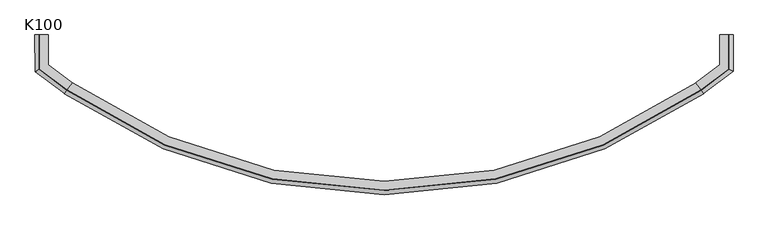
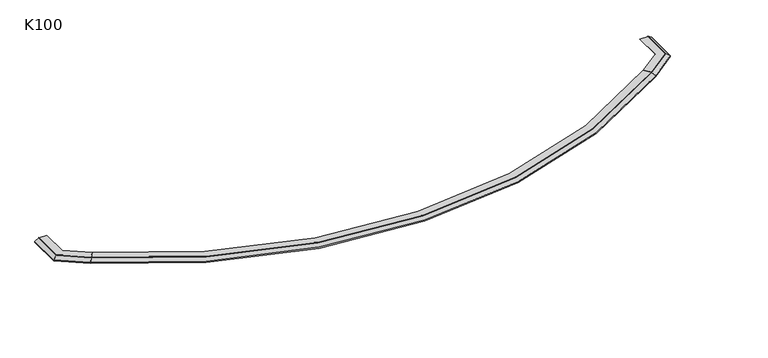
"""IFC4 building model written with IfcOpenShell, lengths in millimetres: proxy geometry, K100 Profil okapowy łukowy : K100."""

import ifcopenshell
import ifcopenshell.guid

model = None  # the IFC model being written
_history = None  # IfcOwnerHistory: only IFC2X3 demands one
_inside = {}  # id of a spatial element -> (the spatial element, [elements in it])
_under = {}  # id of a project, library or spatial element -> (it, [spatial elements below it])
_declared = {}  # id of a project -> (the project, [libraries it declares])
_typed = {}  # id of a type object -> (the type object, [elements of that type])
_made_of = {}  # id of a material, layer set ... -> (it, [elements and type objects made of it])


def new_model(schema):
    """Start an empty IFC model of exactly this schema.

    Asked for "IFC4X3", IfcOpenShell would pick the latest addendum, in which some entities
    have other attributes; the version numbers below select the first issue.
    IFC2X3 requires an IfcOwnerHistory on every rooted entity: one is made here for all.
    """
    global model, _history
    if schema == "IFC4X3":
        model = ifcopenshell.file(schema_version=(4, 3, 0, 0))
    else:
        model = ifcopenshell.file(schema=schema)
    _inside.clear()
    _under.clear()
    _declared.clear()
    _typed.clear()
    _made_of.clear()
    _history = None
    if model.schema == "IFC2X3":
        org = make("IfcOrganization", Name="unknown")
        user = make(
            "IfcPersonAndOrganization",
            ThePerson=make("IfcPerson", FamilyName="unknown"),
            TheOrganization=org,
        )
        app = make(
            "IfcApplication",
            ApplicationDeveloper=org,
            Version="unknown",
            ApplicationFullName="unknown",
            ApplicationIdentifier="unknown",
        )
        _history = make(
            "IfcOwnerHistory",
            OwningUser=user,
            OwningApplication=app,
            ChangeAction="ADDED",
            CreationDate=0,
        )
    return model


def make(cls, **values):
    """One entity of the class cls with the attributes given. An attribute that is None is left unset."""
    return model.create_entity(
        cls, **{name: value for name, value in values.items() if value is not None}
    )


def rooted(cls, **values):
    """An entity with a GlobalId (a new one), such as an element, a storey or a relation."""
    return make(cls, GlobalId=ifcopenshell.guid.new(), OwnerHistory=_history, **values)


def si_unit(unit_type, name, prefix=None):
    """IfcSIUnit, for example si_unit("LENGTHUNIT", "METRE", prefix="MILLI")."""
    return make("IfcSIUnit", UnitType=unit_type, Prefix=prefix, Name=name)


def assignment(units):
    """IfcUnitAssignment: the units of a project."""
    return None if units is None else make("IfcUnitAssignment", Units=units)


def point(xyz):
    """IfcCartesianPoint."""
    return None if xyz is None else make("IfcCartesianPoint", Coordinates=xyz)


def direction(xyz):
    """IfcDirection."""
    return None if xyz is None else make("IfcDirection", DirectionRatios=xyz)


def frame(location, z_axis=None, x_axis=None):
    """IfcAxis2Placement3D, a coordinate frame: its origin and axes. An axis left out is left unset."""
    return make(
        "IfcAxis2Placement3D",
        Location=point(location),
        Axis=direction(z_axis),
        RefDirection=direction(x_axis),
    )


def origin():
    """The frame at (0, 0, 0) with its axes left unset."""
    return frame((0.0, 0.0, 0.0))


def place(relative_to, where):
    """IfcLocalPlacement: puts the frame where relative to a parent placement (None: the world)."""
    return make(
        "IfcLocalPlacement", PlacementRelTo=relative_to, RelativePlacement=where
    )


def context(
    kind, dimensions, precision=None, world=None, true_north=None, identifier=None
):
    """IfcGeometricRepresentationContext, for example the 3D "Model" context."""
    return make(
        "IfcGeometricRepresentationContext",
        ContextIdentifier=identifier,
        ContextType=kind,
        CoordinateSpaceDimension=dimensions,
        Precision=precision,
        WorldCoordinateSystem=world,
        TrueNorth=true_north,
    )


def project(units=None, contexts=None):
    """IfcProject with its units and contexts."""
    return rooted(
        "IfcProject",
        Name="project",
        RepresentationContexts=contexts,
        UnitsInContext=assignment(units),
    )


def spatial(cls, under=None, at=None, **own):
    """A site, building, storey or space (cls), placed at a placement, below another one or the project."""
    s = rooted(cls, ObjectPlacement=at, **own)
    if under is not None:
        _under.setdefault(under.id(), (under, []))[1].append(s)
    return s


def polyline(points):
    """IfcPolyline through the points."""
    return make("IfcPolyline", Points=[point(p) for p in points])


def circle_curve(where, radius):
    """IfcCircle in the frame where."""
    return make("IfcCircle", Position=where, Radius=radius)


def faces_of(points, faces, orient=None, outer=None):
    """IfcFace entities. A face is a list of loops; a loop is a list of indices into points, from 0.

    orient and outer hold one flag for each loop. By default every Orientation is true, the
    first loop of a face is its IfcFaceOuterBound and the others are IfcFaceBound.
    """
    made = []
    for i, loops in enumerate(faces):
        bounds = []
        for j, loop in enumerate(loops):
            is_outer = j == 0 if outer is None else outer[i][j]
            bounds.append(
                make(
                    "IfcFaceOuterBound" if is_outer else "IfcFaceBound",
                    Bound=make("IfcPolyLoop", Polygon=[points[k] for k in loop]),
                    Orientation=True if orient is None else orient[i][j],
                )
            )
        made.append(make("IfcFace", Bounds=bounds))
    return made


def faceted_brep(points, faces, orient=None, outer=None, voids=None):
    """IfcFacetedBrep: a solid bounded by flat faces; with voids (closed shells), ...WithVoids."""
    shared = [point(p) for p in points]
    hull = make("IfcClosedShell", CfsFaces=faces_of(shared, faces, orient, outer))
    if voids is None:
        return make("IfcFacetedBrep", Outer=hull)
    return make(
        "IfcFacetedBrepWithVoids",
        Outer=hull,
        Voids=[
            make(cls, CfsFaces=faces_of(shared, fs, o, b)) for cls, fs, o, b in voids
        ],
    )


def shape(context_of_items, identifier, shape_type, items):
    """IfcShapeRepresentation: the items that make up one representation, for example the "Body"."""
    return make(
        "IfcShapeRepresentation",
        ContextOfItems=context_of_items,
        RepresentationIdentifier=identifier,
        RepresentationType=shape_type,
        Items=items,
    )


def source(mapping_origin, context_of_items, identifier, shape_type, items):
    """IfcRepresentationMap: a shape defined once, which mapped items show again and again."""
    return make(
        "IfcRepresentationMap",
        MappingOrigin=mapping_origin,
        MappedRepresentation=shape(context_of_items, identifier, shape_type, items),
    )


def transform(
    local_origin,
    x_axis=None,
    y_axis=None,
    z_axis=None,
    scale=None,
    scale2=None,
    scale3=None,
    uniform=True,
):
    """IfcCartesianTransformationOperator3D, or its non-uniform kind. x_axis, y_axis, z_axis: its Axis1, 2, 3."""
    if uniform:
        return make(
            "IfcCartesianTransformationOperator3D",
            Axis1=direction(x_axis),
            Axis2=direction(y_axis),
            LocalOrigin=point(local_origin),
            Scale=scale,
            Axis3=direction(z_axis),
        )
    return make(
        "IfcCartesianTransformationOperator3DnonUniform",
        Axis1=direction(x_axis),
        Axis2=direction(y_axis),
        LocalOrigin=point(local_origin),
        Scale=scale,
        Axis3=direction(z_axis),
        Scale2=scale2,
        Scale3=scale3,
    )


def mapped(mapping_source, mapping_target):
    """IfcMappedItem: shows the shape of a source again, moved by a transform."""
    return make(
        "IfcMappedItem", MappingSource=mapping_source, MappingTarget=mapping_target
    )


def made_of(thing, what):
    """Note that an element or type object is made of a material, layer set ...; save() writes the relation."""
    if what is not None:
        _made_of.setdefault(what.id(), (what, []))[1].append(thing)
    return thing


def element(
    cls,
    number,
    at=None,
    inside=None,
    cuts=None,
    type_object=None,
    material=None,
    context=None,
    identifier="Body",
    shape_type=None,
    held_by="IfcProductDefinitionShape",
    body=None,
    shapes=None,
    **own,
):
    """One element of the class cls, such as IfcWall. Its Tag is "e" and its number.

    at: its placement. inside: the storey or other place that contains it. cuts: it is an
    opening in that element (IfcRelVoidsElement). A single representation is given by context,
    identifier, shape_type and body (its items); several are given by shapes. held_by: the class
    of the entity that holds the representations. save() writes the other relations.
    """
    e = rooted(cls, Tag="e%d" % number, ObjectPlacement=at, **own)
    if body is not None:
        shapes = [shape(context, identifier, shape_type, body)]
    if shapes is not None:
        e.Representation = make(held_by, Representations=shapes)
    if inside is not None:
        _inside.setdefault(inside.id(), (inside, []))[1].append(e)
    if cuts is not None:
        rooted(
            "IfcRelVoidsElement", RelatingBuildingElement=cuts, RelatedOpeningElement=e
        )
    if type_object is not None:
        _typed.setdefault(type_object.id(), (type_object, []))[1].append(e)
    return made_of(e, material)


def aggregate(whole, parts):
    """IfcRelAggregates: a whole, such as a stair, and the parts it consists of."""
    return rooted("IfcRelAggregates", RelatingObject=whole, RelatedObjects=parts)


def save(model, path):
    """Write the relations noted so far, then the file.

    IfcRelAggregates (storeys below a building ...), IfcRelContainedInSpatialStructure (elements
    in a storey), IfcRelDefinesByType, IfcRelAssociatesMaterial and IfcRelDeclares: one each for
    every whole, place, type object, material and project.
    """
    for whole, parts in _under.values():
        aggregate(whole, parts)
    for where, things in _inside.values():
        rooted(
            "IfcRelContainedInSpatialStructure",
            RelatedElements=things,
            RelatingStructure=where,
        )
    for kind, things in _typed.values():
        rooted("IfcRelDefinesByType", RelatedObjects=things, RelatingType=kind)
    for what, things in _made_of.values():
        rooted("IfcRelAssociatesMaterial", RelatedObjects=things, RelatingMaterial=what)
    for by, libraries in _declared.values():
        rooted("IfcRelDeclares", RelatingContext=by, RelatedDefinitions=libraries)
    model.write(path)


def plane_surface(at):
    """IfcPlane: the flat surface through the origin of the frame at, square to its z axis."""
    return make("IfcPlane", Position=at)


def cylinder_surface(at, radius):
    """IfcCylindricalSurface: all points at the distance radius from the z axis of the frame at."""
    return make("IfcCylindricalSurface", Position=at, Radius=radius)


def revolved_surface(curve, axis_point, axis_direction):
    """IfcSurfaceOfRevolution: the curve turned about the line through axis_point along axis_direction."""
    return make(
        "IfcSurfaceOfRevolution",
        SweptCurve=make("IfcArbitraryOpenProfileDef", ProfileType="CURVE", Curve=curve),
        AxisPosition=make("IfcAxis1Placement", Location=point(axis_point), Axis=direction(axis_direction)),
    )


def advanced_brep(points, edges, surfaces, faces):
    """IfcAdvancedBrep: a solid bounded by faces that lie on surfaces and meet in shared edges.

    An edge is (start, end): straight between two places in points (the first is 0);
    or (start, end, curve); or (start, end, curve, False) where it runs against its curve.
    A face is (place in surfaces, loops), or (place, loops, False) where it looks against
    its surface's normal. A loop lists edges by number (the first is 1), with a minus sign
    where the edge is run from its end to its start. The first loop is the outer one.
    """
    corners = [point(p) for p in points]
    vertices = [make("IfcVertexPoint", VertexGeometry=c) for c in corners]
    made = []
    for start, end, *more in edges:
        made.append(
            make(
                "IfcEdgeCurve",
                EdgeStart=vertices[start],
                EdgeEnd=vertices[end],
                EdgeGeometry=more[0] if more else make("IfcPolyline", Points=[corners[start], corners[end]]),
                SameSense=more[1] if len(more) > 1 else True,
            )
        )
    hull = []
    for where, loops, *sense in faces:
        bounds = []
        for j, loop in enumerate(loops):
            ring = [make("IfcOrientedEdge", EdgeElement=made[abs(k) - 1], Orientation=k > 0) for k in loop]
            bounds.append(
                make(
                    "IfcFaceOuterBound" if j == 0 else "IfcFaceBound",
                    Bound=make("IfcEdgeLoop", EdgeList=ring),
                    Orientation=True,
                )
            )
        hull.append(make("IfcAdvancedFace", Bounds=bounds, FaceSurface=surfaces[where], SameSense=sense[0] if sense else True))
    return make("IfcAdvancedBrep", Outer=make("IfcClosedShell", CfsFaces=hull))


def k100_c21e507e(model_context):
    return source(origin(), model_context, "Body", "SolidModel", [
        faceted_brep([(4800.0615493, -150.0841398, -3.0), (4800.0615493, -150.0841398, 0.0), (4799.3111286, -149.0844555, 0.0), (4799.3111286, -149.0844555, -3.0), (4760.2892522, -97.10087, -3.0), (4760.2892522, -97.10087, -4.25), (4799.3111286, -149.0844555, -4.25), (4799.3111286, -149.0844555, -7.25), (4800.0615493, -150.0841398, -7.25), (4800.0615493, -150.0841398, -4.4598861), (4817.3212254, -173.0768796, -21.8057194), (4817.3212254, -173.0768796, -29.17), (4818.0716461, -174.0765639, -30.42), (4818.0716461, -174.0765639, -21.1), (5029.9706949, -15.0129211, -21.1), (4999.9984167, 0.0, -3.0), (5029.9706949, -15.0129211, -30.42), (5028.72185, -14.3873827, -29.17), (5028.72185, -14.3873827, -21.8057194), (4999.9984167, 0.0, -4.4598861), (4999.9984167, 0.0, -7.25), (4998.7495718, 0.6255384, -7.25), (4999.2109058, 250.0018846, -7.25), (5000.4609037, 249.9995722, -7.25), (4998.7495718, 0.6255384, -4.25), (4933.8096358, 33.1535341, -4.25), (4934.211017, 250.1221313, -4.25), (4999.2109058, 250.0018846, -4.25), (4933.8096358, 33.1535341, -3.0), (4998.7495718, 0.6255384, -3.0), (4999.2109058, 250.0018846, -3.0), (4934.211017, 250.1221313, -3.0), (4998.7495718, 0.6255384, 0.0), (4999.9984167, 0.0, 0.0), (5000.4609037, 249.9995722, 0.0), (4999.2109058, 250.0018846, 0.0), (5000.4609037, 249.9995722, -3.0), (5030.4608523, 249.9440738, -21.1), (5030.4608523, 249.9440738, -30.42), (5029.2108545, 249.9463862, -29.17), (5029.2108545, 249.9463862, -21.8057194), (5000.4609037, 249.9995722, -4.4598861)], [[[0, 1, 2, 3, 4, 5, 6, 7, 8, 9, 10, 11, 12, 13]], [[13, 14, 15, 0]], [[12, 16, 14, 13]], [[11, 17, 16, 12]], [[10, 18, 17, 11]], [[9, 19, 18, 10]], [[8, 20, 19, 9]], [[7, 21, 22, 23, 20, 8]], [[6, 24, 21, 7]], [[5, 25, 26, 27, 24, 6]], [[4, 28, 25, 5]], [[3, 29, 30, 31, 28, 4]], [[2, 32, 29, 3]], [[1, 33, 34, 35, 32, 2]], [[0, 15, 33, 1]], [[36, 37, 38, 39, 40, 41, 23, 22, 27, 26, 31, 30, 35, 34]], [[14, 37, 36, 15]], [[16, 38, 37, 14]], [[17, 39, 38, 16]], [[18, 40, 39, 17]], [[19, 41, 40, 18]], [[20, 23, 41, 19]], [[24, 27, 22, 21]], [[28, 31, 26, 25]], [[32, 35, 30, 29]], [[15, 36, 34, 33]]]),
        faceted_brep([(199.9369289, -150.084186, -3.0), (181.9268321, -174.07661, -21.1), (181.9268321, -174.07661, -30.42), (182.6772528, -173.0769257, -29.17), (182.6772528, -173.0769257, -21.8057194), (199.9369289, -150.084186, -4.4598861), (199.9369289, -150.084186, -7.25), (200.6873496, -149.0845016, -7.25), (200.6873496, -149.0845016, -4.25), (239.7092259, -97.1009161, -4.25), (239.7092259, -97.1009161, -3.0), (200.6873496, -149.0845016, -3.0), (200.6873496, -149.0845016, 0.0), (199.9369289, -150.084186, 0.0), (6.14e-05, -4.61e-05, -3.0), (-29.9460861, -15.0325824, -21.1), (-29.9460861, -15.0325824, -30.42), (-28.6983299, -14.4062267, -29.17), (-28.6983299, -14.4062267, -21.8057194), (6.14e-05, -4.61e-05, -4.4598861), (6.14e-05, -4.61e-05, -7.25), (-0.8987562, 249.9983381, -7.25), (0.3512358, 250.0028322, -7.25), (1.2478176, 0.6263096, -7.25), (1.2478176, 0.6263096, -4.25), (0.3512358, 250.0028322, -4.25), (65.3508157, 250.2365248, -4.25), (66.1311372, 33.1968048, -4.25), (66.1311372, 33.1968048, -3.0), (65.3508157, 250.2365248, -3.0), (0.3512358, 250.0028322, -3.0), (1.2478176, 0.6263096, -3.0), (1.2478176, 0.6263096, 0.0), (0.3512358, 250.0028322, 0.0), (-0.8987562, 249.9983381, 0.0), (6.14e-05, -4.61e-05, 0.0), (-0.8987562, 249.9983381, -3.0), (-0.8987562, 249.9983381, -4.4598861), (-29.6485703, 249.8949741, -21.8057194), (-29.6485703, 249.8949741, -29.17), (-30.8985623, 249.89048, -30.42), (-30.8985623, 249.89048, -21.1)], [[[0, 1, 2, 3, 4, 5, 6, 7, 8, 9, 10, 11, 12, 13]], [[1, 0, 14, 15]], [[2, 1, 15, 16]], [[3, 2, 16, 17]], [[4, 3, 17, 18]], [[5, 4, 18, 19]], [[6, 5, 19, 20]], [[7, 6, 20, 21, 22, 23]], [[8, 7, 23, 24]], [[9, 8, 24, 25, 26, 27]], [[10, 9, 27, 28]], [[11, 10, 28, 29, 30, 31]], [[12, 11, 31, 32]], [[13, 12, 32, 33, 34, 35]], [[0, 13, 35, 14]], [[36, 34, 33, 30, 29, 26, 25, 22, 21, 37, 38, 39, 40, 41]], [[15, 14, 36, 41]], [[16, 15, 41, 40]], [[17, 16, 40, 39]], [[18, 17, 39, 38]], [[19, 18, 38, 37]], [[20, 19, 37, 21]], [[24, 23, 22, 25]], [[28, 27, 26, 29]], [[32, 31, 30, 33]], [[14, 35, 34, 36]]]),
        advanced_brep(
        [(200.0438157, -150.1453511, -3.0), (200.0438157, -150.1453511, 0.0), (200.7625518, -149.1226495, 0.0), (200.7625518, -149.1226495, -3.0), (238.1368269, -95.9421685, -3.0), (238.1368269, -95.9421685, -4.25), (200.7625518, -149.1226495, -4.25), (200.7625518, -149.1226495, -7.25), (200.0438157, -150.1453511, -7.25), (200.0438157, -150.1453511, -4.4598861), (183.5128863, -173.6674869, -21.8057194), (183.5128863, -173.6674869, -29.17), (182.7941503, -174.6901885, -30.42), (182.7941503, -174.6901885, -21.1), (4799.954601, -150.1453511, -3.0), (4817.2042665, -174.6901885, -21.1), (4817.2042665, -174.6901885, -30.42), (4816.4855304, -173.6674869, -29.17), (4816.4855304, -173.6674869, -21.8057194), (4799.954601, -150.1453511, -4.4598861), (4799.954601, -150.1453511, -7.25), (4799.235865, -149.1226495, -7.25), (4799.235865, -149.1226495, -4.25), (4761.8615898, -95.9421685, -4.25), (4761.8615898, -95.9421685, -3.0), (4799.235865, -149.1226495, -3.0), (4799.235865, -149.1226495, 0.0), (4799.954601, -150.1453511, 0.0)],
        [
            (0, 1),
            (1, 2),
            (2, 3),
            (3, 4),
            (4, 5),
            (5, 6),
            (6, 7),
            (7, 8),
            (8, 9),
            (9, 10),
            (10, 11),
            (11, 12),
            (12, 13),
            (13, 0),
            (14, 15),
            (15, 16),
            (16, 17),
            (17, 18),
            (18, 19),
            (19, 20),
            (20, 21),
            (21, 22),
            (22, 23),
            (23, 24),
            (24, 25),
            (25, 26),
            (26, 27),
            (27, 14),
            (27, 1, circle_curve(frame((2499.9992084, 3122.499633, 0.0), z_axis=(0.0, 0.0, -1.0), x_axis=(-0.5749888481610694, -0.8181612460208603, 0.0)), 4000.0)),
            (0, 14, circle_curve(frame((2499.9992084, 3122.499633, -3.0), z_axis=(0.0, 0.0, 1.0), x_axis=(-0.5749888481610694, -0.8181612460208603, 0.0)), 4000.0)),
            (26, 2, circle_curve(frame((2499.9992084, 3122.499633, 0.0), z_axis=(0.0, 0.0, -1.0), x_axis=(-0.5749888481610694, -0.8181612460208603, 0.0)), 3998.75)),
            (25, 3, circle_curve(frame((2499.9992084, 3122.499633, -3.0), z_axis=(0.0, 0.0, -1.0), x_axis=(-0.5749888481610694, -0.8181612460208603, 0.0)), 3998.75)),
            (24, 4, circle_curve(frame((2499.9992084, 3122.499633, -3.0), z_axis=(0.0, 0.0, -1.0), x_axis=(-0.5749888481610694, -0.8181612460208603, 0.0)), 3933.75)),
            (23, 5, circle_curve(frame((2499.9992084, 3122.499633, -4.25), z_axis=(0.0, 0.0, -1.0), x_axis=(-0.5749888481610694, -0.8181612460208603, 0.0)), 3933.75)),
            (22, 6, circle_curve(frame((2499.9992084, 3122.499633, -4.25), z_axis=(0.0, 0.0, -1.0), x_axis=(-0.5749888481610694, -0.8181612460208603, 0.0)), 3998.75)),
            (21, 7, circle_curve(frame((2499.9992084, 3122.499633, -7.25), z_axis=(0.0, 0.0, -1.0), x_axis=(-0.5749888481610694, -0.8181612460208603, 0.0)), 3998.75)),
            (20, 8, circle_curve(frame((2499.9992084, 3122.499633, -7.25), z_axis=(0.0, 0.0, -1.0), x_axis=(-0.5749888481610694, -0.8181612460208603, 0.0)), 4000.0)),
            (19, 9, circle_curve(frame((2499.9992084, 3122.499633, -4.4598861), z_axis=(0.0, 0.0, -1.0), x_axis=(-0.5749888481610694, -0.8181612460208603, 0.0)), 4000.0)),
            (18, 10, circle_curve(frame((2499.9992084, 3122.499633, -21.8057194), z_axis=(0.0, 0.0, -1.0), x_axis=(-0.5749888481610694, -0.8181612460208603, 0.0)), 4028.75)),
            (17, 11, circle_curve(frame((2499.9992084, 3122.499633, -29.17), z_axis=(0.0, 0.0, -1.0), x_axis=(-0.5749888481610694, -0.8181612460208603, 0.0)), 4028.75)),
            (16, 12, circle_curve(frame((2499.9992084, 3122.499633, -30.42), z_axis=(0.0, 0.0, -1.0), x_axis=(-0.5749888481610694, -0.8181612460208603, 0.0)), 4030.0)),
            (15, 13, circle_curve(frame((2499.9992084, 3122.499633, -21.1), z_axis=(0.0, 0.0, -1.0), x_axis=(-0.5749888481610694, -0.8181612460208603, 0.0)), 4030.0)),
        ],
        [
            plane_surface(frame((200.0438157, -150.1453511, 0.0), z_axis=(-0.8181612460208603, 0.5749888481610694, 0.0), x_axis=(0.0, 0.0, 1.0))),
            plane_surface(frame((4799.954601, -150.1453511, 0.0), z_axis=(0.8181612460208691, 0.5749888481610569, 0.0), x_axis=(0.0, 0.0, 1.0))),
            cylinder_surface(frame((2499.9992084, 3122.499633, 0.0), z_axis=(0.0, 0.0, 1.0), x_axis=(-0.5749888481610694, -0.8181612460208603, 0.0)), 4000.0),
            plane_surface(frame((2499.9992084, 3122.499633, 0.0), z_axis=(0.0, 0.0, 1.0), x_axis=(-0.5749888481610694, -0.8181612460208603, 0.0))),
            revolved_surface(polyline([(200.76255181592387, -149.12264952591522, 0.0), (200.76255181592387, -149.12264952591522, -3.0)]), (2499.9992084, 3122.499633, 0.0), (0.0, 0.0, 1.0)),
            plane_surface(frame((2499.9992084, 3122.499633, -3.0), z_axis=(0.0, 0.0, 1.0), x_axis=(-0.5749888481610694, -0.8181612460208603, 0.0))),
            revolved_surface(polyline([(238.13682694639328, -95.94216853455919, -3.0), (238.13682694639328, -95.94216853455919, -4.25)]), (2499.9992084, 3122.499633, 0.0), (0.0, 0.0, 1.0)),
            plane_surface(frame((2499.9992084, 3122.499633, -4.25), z_axis=(0.0, 0.0, -1.0), x_axis=(-0.5749888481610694, -0.8181612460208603, 0.0))),
            revolved_surface(polyline([(200.76255181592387, -149.12264952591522, -4.25), (200.76255181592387, -149.12264952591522, -7.25)]), (2499.9992084, 3122.499633, 0.0), (0.0, 0.0, 1.0)),
            plane_surface(frame((2499.9992084, 3122.499633, -7.25), z_axis=(0.0, 0.0, -1.0), x_axis=(-0.5749888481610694, -0.8181612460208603, 0.0))),
            revolved_surface(polyline([(200.0438157, -150.1453511, -4.4598861), (183.5128863, -173.6674869, -21.8057194)]), (2499.9992084, 3122.499633, 0.0), (0.0, 0.0, 1.0)),
            revolved_surface(polyline([(183.51288637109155, -173.66748690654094, -21.8057194), (183.51288637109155, -173.66748690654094, -29.17)]), (2499.9992084, 3122.499633, 0.0), (0.0, 0.0, 1.0)),
            revolved_surface(polyline([(183.5128863, -173.6674869, -29.17), (182.7941503, -174.6901885, -30.42)]), (2499.9992084, 3122.499633, 0.0), (0.0, 0.0, 1.0)),
            cylinder_surface(frame((2499.9992084, 3122.499633, 0.0), z_axis=(0.0, 0.0, 1.0), x_axis=(-0.5749888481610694, -0.8181612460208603, 0.0)), 4030.0),
            revolved_surface(polyline([(182.7941503, -174.6901885, -21.1), (200.0438157, -150.1453511, -3.0)]), (2499.9992084, 3122.499633, 0.0), (0.0, 0.0, 1.0)),
        ],
        [
            (0, [[1, 2, 3, 4, 5, 6, 7, 8, 9, 10, 11, 12, 13, 14]]),
            (1, [[15, 16, 17, 18, 19, 20, 21, 22, 23, 24, 25, 26, 27, 28]]),
            (2, [[29, -1, 30, -28]]),
            (3, [[31, -2, -29, -27]]),
            (4, [[32, -3, -31, -26]]),
            (5, [[33, -4, -32, -25]]),
            (6, [[34, -5, -33, -24]]),
            (7, [[35, -6, -34, -23]]),
            (8, [[36, -7, -35, -22]]),
            (9, [[37, -8, -36, -21]]),
            (2, [[38, -9, -37, -20]]),
            (10, [[39, -10, -38, -19]]),
            (11, [[40, -11, -39, -18]]),
            (12, [[41, -12, -40, -17]]),
            (13, [[42, -13, -41, -16]]),
            (14, [[-30, -14, -42, -15]]),
        ],
    ),
    ])


if __name__ == "__main__":
    model = new_model("IFC4")
    model_context = context("Model", 3, world=origin())
    ifc_project = project(units=[si_unit("LENGTHUNIT", "METRE", prefix="MILLI")], contexts=[model_context])
    site = spatial("IfcSite", under=ifc_project)
    building = spatial("IfcBuilding", under=site)
    placement = place(None, origin())
    k100_shape = k100_c21e507e(model_context)
    element("IfcBuildingElementProxy", 1, Name="K100 Profil okapowy łukowy : K100", ObjectType="K100 Profil okapowy łukowy : K100", at=placement, inside=building, context=model_context, shape_type="MappedRepresentation", body=[
        mapped(k100_shape, transform((0.0, 0.0, 0.0), x_axis=(1.0, 0.0, 0.0), y_axis=(0.0, 1.0, 0.0), z_axis=(0.0, 0.0, 1.0))),
    ])
    save(model, "model.ifc")
